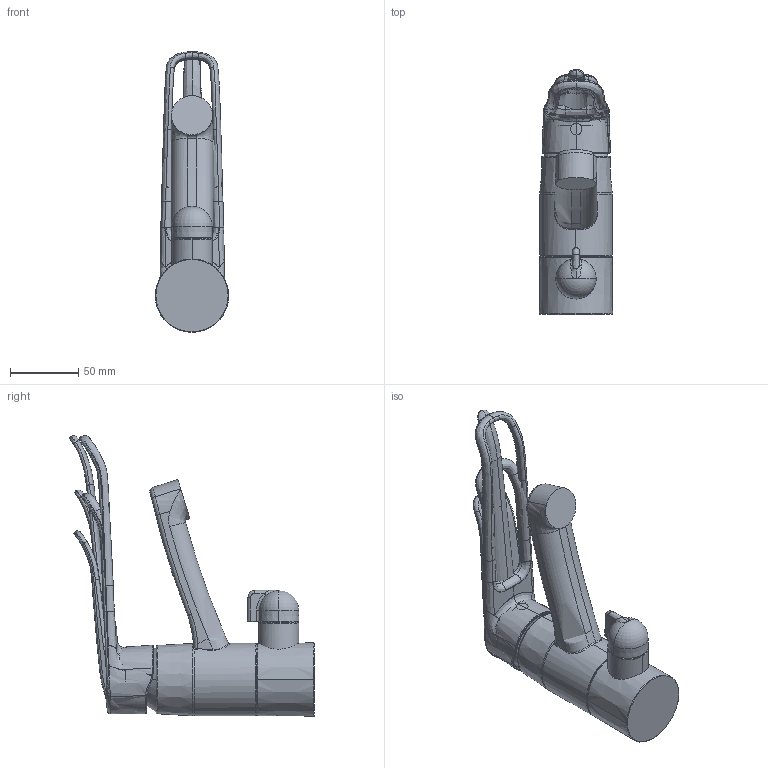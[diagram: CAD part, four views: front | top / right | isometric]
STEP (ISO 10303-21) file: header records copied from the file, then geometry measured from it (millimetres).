
FILE_DESCRIPTION (( 'STEP AP203' ), '1' );
FILE_NAME ('700008CONF.STEP', '2026-01-08T09:08:00', ( '' ), ( '' ), 'SwSTEP 2.0', 'SolidWorks 2024', '' );
FILE_SCHEMA (( 'CONFIG_CONTROL_DESIGN' ));
Products named in the file (1): 700008CONF
Bounding box: 53.72 x 178.89 x 205.36 mm (x, y, z)
Volume: 751051.8 mm3; surface area: 123634 mm2
Topology: 9 solids, 9 shells, 461 faces, 1140 edges, 691 vertices
Faces by surface type: bspline 385, torus 25, plane 24, cylinder 18, cone 9
Entity records: 73614 total; most frequent: CARTESIAN_POINT 65755, ORIENTED_EDGE 2270, EDGE_CURVE 1135, B_SPLINE_CURVE_WITH_KNOTS 878, VERTEX_POINT 691, DIRECTION 571, EDGE_LOOP 464, ADVANCED_FACE 461
